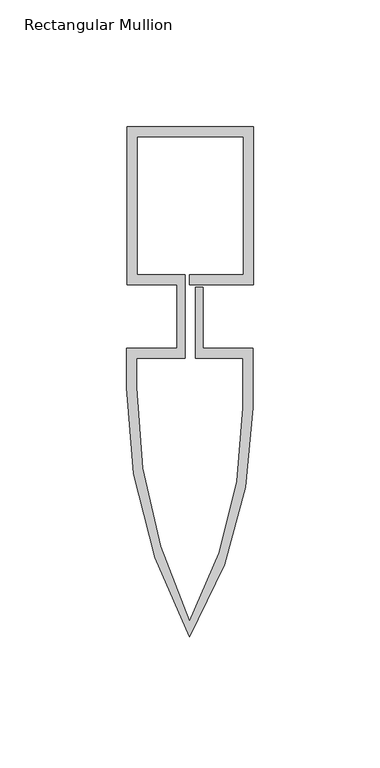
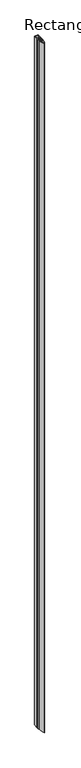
"""IFC4 building model written with IfcOpenShell, lengths in millimetres: member geometry, Rectangular Mullion : Reynaers_CW-50_Mullion-Transom_Vertical_62.5mm_Facecap-05."""

from ifc_helpers import new_model, si_unit, point, frame, frame_2d, origin, place, context, project, spatial, polyline, circle_curve, trimmed, segment, composite_curve, outline, extrude, source, transform, mapped, element, save


def rectangular_mullion_31d17d8e(model_context):
    return source(origin(), model_context, "Body", "SweptSolid", [
        extrude(outline(composite_curve([segment(polyline([(-24.8004059, 75.0), (25.1995941, 75.0), (25.1995941, 12.5), (0.0, 12.5), (0.0, 16.5), (21.1995941, 16.5), (21.1995941, 71.0), (-20.8004059, 71.0), (-20.8004059, 16.5), (-1.9004059, 16.5), (-1.9004059, -16.5), (-20.994845, -16.5), (-20.994845, -28.2355063)]), True, "CONTINUOUS"), segment(trimmed(circle_curve(frame_2d((191.2554764, -28.2355063)), 212.2503214), [point((-20.994845, -28.2355063))], [point((0.0, -120.2764846))], True, "CARTESIAN"), True, "CONTINUOUS"), segment(trimmed(circle_curve(frame_2d((-158.432152, -36.0547506)), 179.426997), [point((0.0, -120.2764846))], [point((20.994845, -36.0547506))], True, "CARTESIAN"), True, "CONTINUOUS"), segment(polyline([(20.994845, -36.0547506), (20.994845, -16.5), (2.2995941, -16.5), (2.2995941, 11.5), (5.2995941, 11.5), (5.2995941, -12.5), (24.994845, -12.5), (24.994845, -36.0195976)]), True, "CONTINUOUS"), segment(trimmed(circle_curve(frame_2d((-151.2704106, -36.0195976)), 176.2652556), [point((24.994845, -36.0195976))], [point((0.0, -126.5))], False, "CARTESIAN"), True, "CONTINUOUS"), segment(trimmed(circle_curve(frame_2d((181.1469577, -28.111878)), 206.1418028), [point((0.0, -126.5))], [point((-24.994845, -28.111878))], False, "CARTESIAN"), True, "CONTINUOUS"), segment(polyline([(-24.994845, -28.111878), (-24.994845, -12.5), (-4.9004059, -12.5), (-4.9004059, 12.5), (-24.8004059, 12.5), (-24.8004059, 75.0)]), True, "CONTINUOUS")], self_intersect=False)), frame((0.0, 0.0, -10400.0), z_axis=(0.0, 0.0, 1.0), x_axis=(1.0, 0.0, 0.0)), (0.0, 0.0, 1.0), 10400.0),
    ])


if __name__ == "__main__":
    model = new_model("IFC4")
    model_context = context("Model", 3, world=origin())
    ifc_project = project(units=[si_unit("LENGTHUNIT", "METRE", prefix="MILLI")], contexts=[model_context])
    site = spatial("IfcSite", under=ifc_project)
    building = spatial("IfcBuilding", under=site)
    placement = place(None, origin())
    rectangular_mullion_shape = rectangular_mullion_31d17d8e(model_context)
    element("IfcMember", 1, ObjectType="Rectangular Mullion : Reynaers_CW-50_Mullion-Transom_Vertical_62.5mm_Facecap-05", at=placement, inside=building, context=model_context, shape_type="MappedRepresentation", body=[
        mapped(rectangular_mullion_shape, transform((0.0, 0.0, 0.0), x_axis=(1.0, 0.0, 0.0), y_axis=(0.0, 1.0, 0.0), z_axis=(0.0, 0.0, 1.0))),
    ])
    save(model, "model.ifc")
